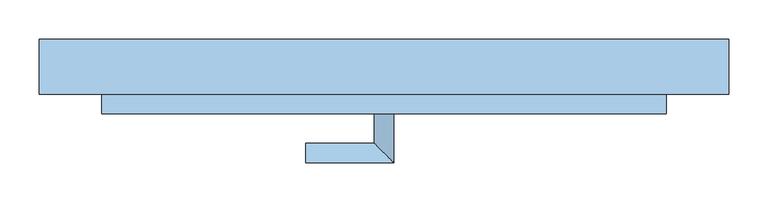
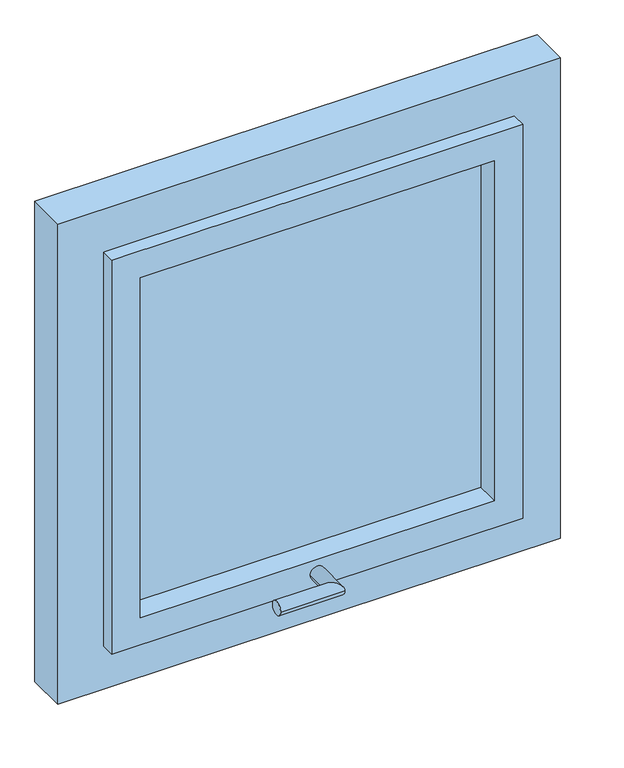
"""IFC4 building model written with IfcOpenShell, lengths in millimetres: window geometry, RFAM2316_Window-10 : Window  FIX (0,9x0,9)."""

from ifc_helpers import new_model, si_unit, frame, origin, place, context, project, spatial, polyline, circle_curve, ellipse_curve, outline, extrude, faceted_brep, source, transform, mapped, element, save
from ifc_brep_helpers import plane_surface, cylinder_surface, advanced_brep


def window_329c73b1(model_context):
    return source(origin(), model_context, "Body", "SolidModel", [
        advanced_brep(
        [(244.3584094, -139.9407167, 1005.0), (269.3584094, -139.9407167, 1005.0), (244.3584094, -177.4407167, 1005.0), (269.3584094, -202.4407167, 1005.0), (156.8584094, -177.4407167, 1005.0), (156.8584094, -202.4407167, 1005.0)],
        [
            (0, 1, circle_curve(frame((256.8584094, -139.9407167, 1005.0), z_axis=(0.0, 1.0, 0.0), x_axis=(1.0, 0.0, 0.0)), 12.5)),
            (1, 0, circle_curve(frame((256.8584094, -139.9407167, 1005.0), z_axis=(0.0, 1.0, 0.0), x_axis=(1.0, 0.0, 0.0)), 12.5)),
            (0, 2),
            (2, 3, ellipse_curve(frame((256.8584094, -189.9407167, 1005.0), z_axis=(0.7071067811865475, 0.7071067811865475, 0.0), x_axis=(-0.7071067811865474, 0.7071067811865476, 0.0)), 17.6776695, 12.5)),
            (3, 1),
            (3, 2, ellipse_curve(frame((256.8584094, -189.9407167, 1005.0), z_axis=(0.7071067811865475, 0.7071067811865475, 0.0), x_axis=(-0.7071067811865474, 0.7071067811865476, 0.0)), 17.6776695, 12.5)),
            (4, 5, circle_curve(frame((156.8584094, -189.9407167, 1005.0), z_axis=(-1.0, 0.0, 0.0), x_axis=(0.0, -1.0, 0.0)), 12.5)),
            (5, 4, circle_curve(frame((156.8584094, -189.9407167, 1005.0), z_axis=(-1.0, 0.0, 0.0), x_axis=(0.0, -1.0, 0.0)), 12.5)),
            (2, 4),
            (5, 3),
        ],
        [
            plane_surface(frame((256.8584094, -139.9407167, 1005.0), z_axis=(0.0, 1.0, 0.0), x_axis=(0.0, 0.0, 1.0))),
            cylinder_surface(frame((256.8584094, -139.9407167, 1005.0), z_axis=(0.0, 1.0, 0.0), x_axis=(1.0, 0.0, 0.0)), 12.5),
            plane_surface(frame((156.8584094, -189.9407167, 1005.0), z_axis=(-1.0, 0.0, 0.0), x_axis=(0.0, 0.0, 1.0))),
            cylinder_surface(frame((256.8584094, -189.9407167, 1005.0), z_axis=(1.0, 0.0, 0.0), x_axis=(0.0, -1.0, 0.0)), 12.5),
        ],
        [
            (0, [[1, 2]]),
            (1, [[-1, 3, 4, 5]]),
            (1, [[-2, -5, 6, -3]]),
            (2, [[7, 8]]),
            (3, [[-4, 9, -8, 10]]),
            (3, [[-6, -10, -7, -9]]),
        ],
    ),
        extrude(outline(polyline([(566.8584094, -90.9407167), (566.8584094, -98.9407167), (-53.1415906, -98.9407167), (-53.1415906, -90.9407167), (566.8584094, -90.9407167)])), frame((0.0, 0.0, 1030.0), z_axis=(0.0, 0.0, 1.0), x_axis=(1.0, 0.0, 0.0)), (0.0, 0.0, 1.0), 630.0),
        faceted_brep([(-103.1415906, -69.9407167, 980.0), (616.8584094, -69.9407167, 980.0), (616.8584094, -114.9407167, 980.0), (616.8584094, -139.9407167, 980.0), (-103.1415906, -139.9407167, 980.0), (-103.1415906, -114.9407167, 980.0), (-53.1415906, -69.9407167, 1030.0), (-53.1415906, -139.9407167, 1030.0), (566.8584094, -139.9407167, 1030.0), (566.8584094, -69.9407167, 1030.0), (616.8584094, -69.9407167, 1710.0), (616.8584094, -114.9407167, 1710.0), (616.8584094, -139.9407167, 1710.0), (566.8584094, -139.9407167, 1660.0), (566.8584094, -69.9407167, 1660.0), (-103.1415906, -69.9407167, 1710.0), (-103.1415906, -114.9407167, 1710.0), (-103.1415906, -139.9407167, 1710.0), (-53.1415906, -139.9407167, 1660.0), (-53.1415906, -69.9407167, 1660.0)], [[[0, 1, 2, 3, 4, 5]], [[6, 7, 8, 9]], [[1, 10, 11, 12, 3, 2]], [[9, 8, 13, 14]], [[10, 15, 16, 17, 12, 11]], [[14, 13, 18, 19]], [[1, 0, 15, 10], [6, 9, 14, 19]], [[15, 0, 5, 4, 17, 16]], [[4, 3, 12, 17], [8, 7, 18, 13]], [[7, 6, 19, 18]]]),
        extrude(outline(polyline([(1790.0, 696.8584094), (1790.0, -183.1415906), (900.0, -183.1415906), (900.0, 696.8584094), (1790.0, 696.8584094)]), holes=[polyline([(1710.0, -103.1415906), (1710.0, 616.8584094), (980.0, 616.8584094), (980.0, -103.1415906), (1710.0, -103.1415906)])]), frame((0.0, -114.9407167, 0.0), z_axis=(0.0, 1.0, 0.0), x_axis=(0.0, 0.0, 1.0)), (0.0, 0.0, 1.0), 70.0),
    ])


if __name__ == "__main__":
    model = new_model("IFC4")
    model_context = context("Model", 3, world=origin())
    ifc_project = project(units=[si_unit("LENGTHUNIT", "METRE", prefix="MILLI")], contexts=[model_context])
    site = spatial("IfcSite", under=ifc_project)
    building = spatial("IfcBuilding", under=site)
    placement = place(None, origin())
    window_shape = window_329c73b1(model_context)
    element("IfcWindow", 1, ObjectType="RFAM2316_Window-10 : Window  FIX (0,9x0,9)", at=placement, inside=building, context=model_context, shape_type="MappedRepresentation", body=[
        mapped(window_shape, transform((0.0, 0.0, 0.0), x_axis=(1.0, 0.0, 0.0), y_axis=(0.0, 1.0, 0.0), z_axis=(0.0, 0.0, 1.0))),
    ])
    save(model, "model.ifc")
